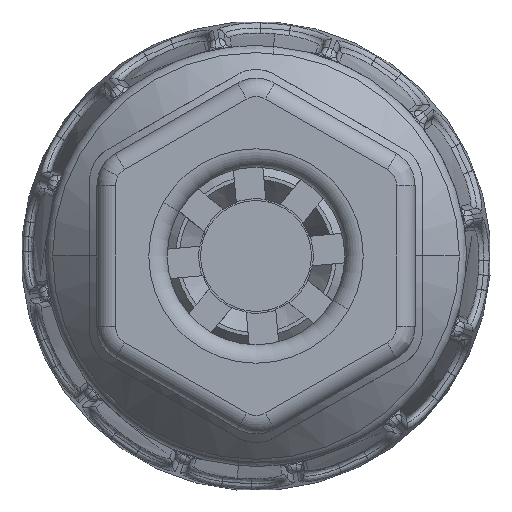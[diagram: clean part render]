
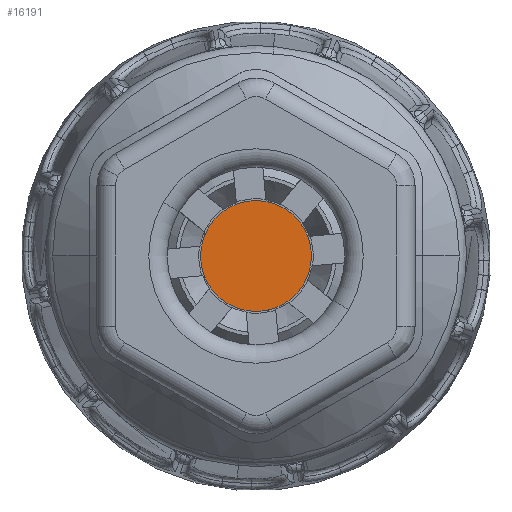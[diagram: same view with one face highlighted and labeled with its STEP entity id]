
A CAD part, left-side view. The second image highlights one B-rep face of the part: STEP entity #16191.
In plain terms, the highlighted planar face has unit normal (-1, 0, 0) as drawn and (0, 0, 1) by its records, which use the part's own axes.
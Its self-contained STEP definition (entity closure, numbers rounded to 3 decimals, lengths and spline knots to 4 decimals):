
#2612 = DIRECTION ( 'NONE',  ( 1., 0., 0. ) ) ;
#2613 = DIRECTION ( 'NONE',  ( 0., 0., 1. ) ) ;
#2614 = CARTESIAN_POINT ( 'NONE',  ( 0., 0., 0. ) ) ;
#2619 = CIRCLE ( 'NONE', #2624, 3. ) ;
#2623 = CARTESIAN_POINT ( 'NONE',  ( -3., 0., 0. ) ) ;
#2624 = AXIS2_PLACEMENT_3D ( 'NONE', #2614, #2613, #2612 ) ;
#2626 = CARTESIAN_POINT ( 'NONE',  ( 3., 0., 0. ) ) ;
#16105 = EDGE_CURVE ( 'NONE', #18895, #18897, #39748, .T. ) ;
#16106 = ORIENTED_EDGE ( 'NONE', *, *, #18900, .T. ) ;
#16156 = EDGE_LOOP ( 'NONE', ( #16106, #16189 ) ) ;
#16189 = ORIENTED_EDGE ( 'NONE', *, *, #16105, .T. ) ;
#16191 = ADVANCED_FACE ( 'NONE', ( #40093 ), #40114, .T. ) ;
#18895 = VERTEX_POINT ( 'NONE', #2623 ) ;
#18897 = VERTEX_POINT ( 'NONE', #2626 ) ;
#18900 = EDGE_CURVE ( 'NONE', #18897, #18895, #2619, .T. ) ;
#39743 = CARTESIAN_POINT ( 'NONE',  ( 0., 0., 0. ) ) ;
#39745 = AXIS2_PLACEMENT_3D ( 'NONE', #39743, #39802, #39801 ) ;
#39748 = CIRCLE ( 'NONE', #39745, 3. ) ;
#39801 = DIRECTION ( 'NONE',  ( 1., 0., 0. ) ) ;
#39802 = DIRECTION ( 'NONE',  ( 0., 0., 1. ) ) ;
#40046 = CARTESIAN_POINT ( 'NONE',  ( 0., 0., 0. ) ) ;
#40093 = FACE_OUTER_BOUND ( 'NONE', #16156, .T. ) ;
#40102 = DIRECTION ( 'NONE',  ( 1., 0., 0. ) ) ;
#40103 = DIRECTION ( 'NONE',  ( 0., 0., 1. ) ) ;
#40114 = PLANE ( 'NONE',  #40116 ) ;
#40116 = AXIS2_PLACEMENT_3D ( 'NONE', #40046, #40103, #40102 ) ;
